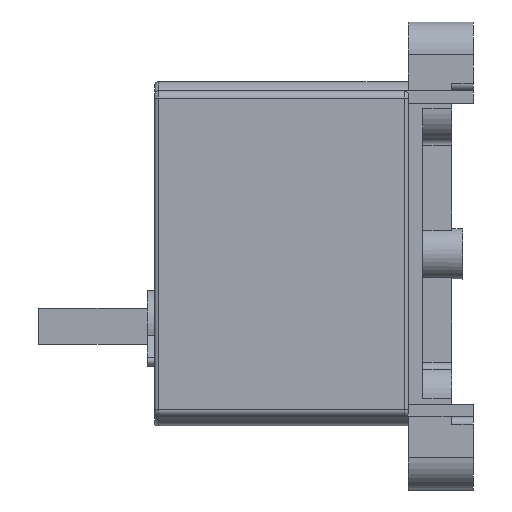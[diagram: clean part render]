
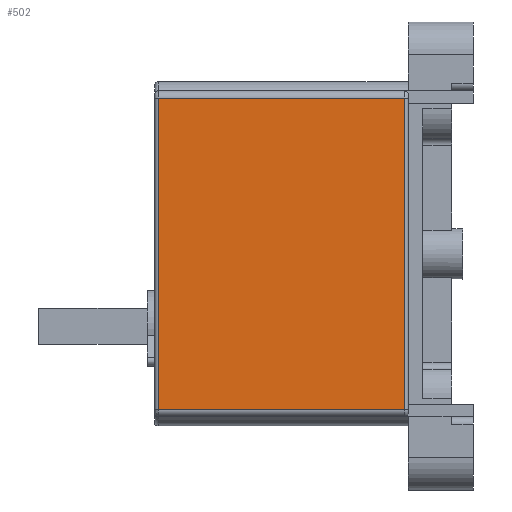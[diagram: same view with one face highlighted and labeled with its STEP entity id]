
A CAD part, left-side view. The second image highlights one B-rep face of the part: STEP entity #502.
In plain terms, the highlighted planar face has unit normal (-1, 0, 0).
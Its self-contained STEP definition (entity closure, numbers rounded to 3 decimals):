
#157=PLANE('',#4352);
#502=ADVANCED_FACE('',(#767),#157,.F.);
#767=FACE_OUTER_BOUND('',#1037,.T.);
#1037=EDGE_LOOP('',(#2192,#2193,#2194,#2195));
#2192=ORIENTED_EDGE('',*,*,#3273,.F.);
#2193=ORIENTED_EDGE('',*,*,#3259,.T.);
#2194=ORIENTED_EDGE('',*,*,#3274,.T.);
#2195=ORIENTED_EDGE('',*,*,#2960,.T.);
#2537=VERTEX_POINT('',#6004);
#2541=VERTEX_POINT('',#6013);
#2727=VERTEX_POINT('',#6717);
#2731=VERTEX_POINT('',#6749);
#2960=EDGE_CURVE('',#2537,#2541,#3442,.T.);
#3259=EDGE_CURVE('',#2727,#2731,#3602,.T.);
#3273=EDGE_CURVE('',#2727,#2541,#3609,.T.);
#3274=EDGE_CURVE('',#2731,#2537,#3610,.T.);
#3442=LINE('',#6014,#3778);
#3602=LINE('',#6750,#3938);
#3609=LINE('',#6802,#3945);
#3610=LINE('',#6804,#3946);
#3778=VECTOR('',#4810,1.);
#3938=VECTOR('',#5454,1.);
#3945=VECTOR('',#5479,1.);
#3946=VECTOR('',#5482,1.);
#4352=AXIS2_PLACEMENT_3D('',#6805,#5483,#5484);
#4810=DIRECTION('',(0.,0.,1.));
#5454=DIRECTION('',(0.,0.,-1.));
#5479=DIRECTION('',(0.,-1.,0.));
#5482=DIRECTION('',(0.,-1.,0.));
#5483=DIRECTION('',(1.,0.,0.));
#5484=DIRECTION('',(0.,0.,-1.));
#6004=CARTESIAN_POINT('',(-41.,1.,-43.));
#6013=CARTESIAN_POINT('',(-41.,1.,43.));
#6014=CARTESIAN_POINT('',(-41.,1.,-43.));
#6717=CARTESIAN_POINT('',(-41.,69.,43.));
#6749=CARTESIAN_POINT('',(-41.,69.,-43.));
#6750=CARTESIAN_POINT('',(-41.,69.,-43.));
#6802=CARTESIAN_POINT('',(-41.,35.,43.));
#6804=CARTESIAN_POINT('',(-41.,35.,-43.));
#6805=CARTESIAN_POINT('',(-41.,35.,-43.));
